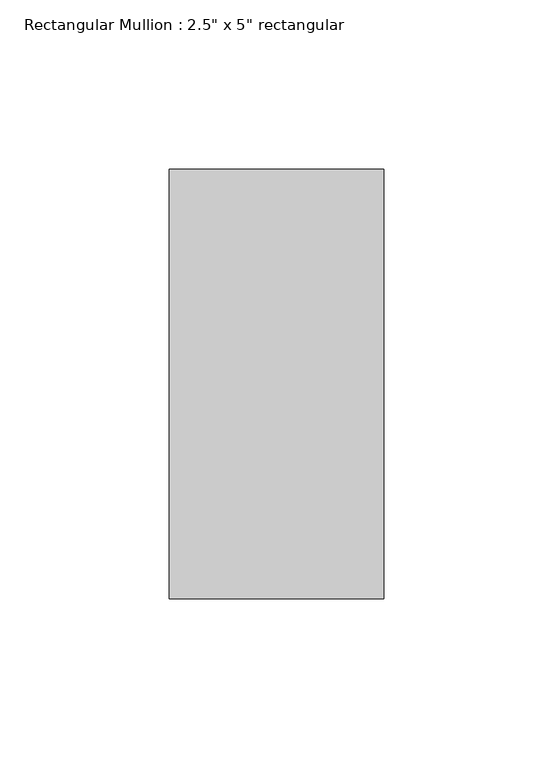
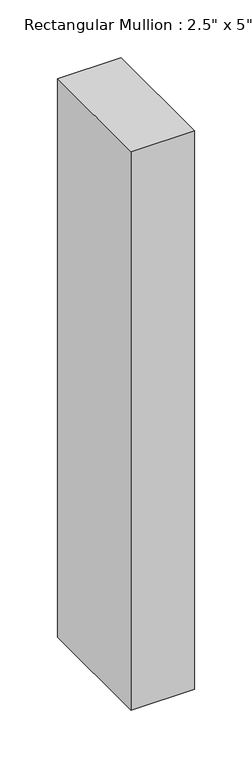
"""IFC4 building model written with IfcOpenShell, lengths in millimetres: member geometry."""

from ifc_helpers import new_model, si_unit, frame, origin, place, context, project, spatial, polyline, outline, extrude, source, transform, mapped, element, save


def member_e5d39754(model_context):
    return source(origin(), model_context, "Body", "SweptSolid", [
        extrude(outline(polyline([(0.0, 63.5), (0.0, -63.5), (-63.5, -63.5), (-63.5, 63.5), (0.0, 63.5)])), frame((0.0, 0.0, -590.55), z_axis=(0.0, 0.0, 1.0), x_axis=(1.0, 0.0, 0.0)), (0.0, 0.0, 1.0), 590.55),
    ])


if __name__ == "__main__":
    model = new_model("IFC4")
    model_context = context("Model", 3, world=origin())
    ifc_project = project(units=[si_unit("LENGTHUNIT", "METRE", prefix="MILLI")], contexts=[model_context])
    site = spatial("IfcSite", under=ifc_project)
    building = spatial("IfcBuilding", under=site)
    placement = place(None, origin())
    member_shape = member_e5d39754(model_context)
    element("IfcMember", 1, ObjectType="Rectangular Mullion : 2.5\" x 5\" rectangular", at=placement, inside=building, context=model_context, shape_type="MappedRepresentation", body=[
        mapped(member_shape, transform((0.0, 0.0, 0.0), x_axis=(1.0, 0.0, 0.0), y_axis=(0.0, 1.0, 0.0), z_axis=(0.0, 0.0, 1.0))),
    ])
    save(model, "model.ifc")
